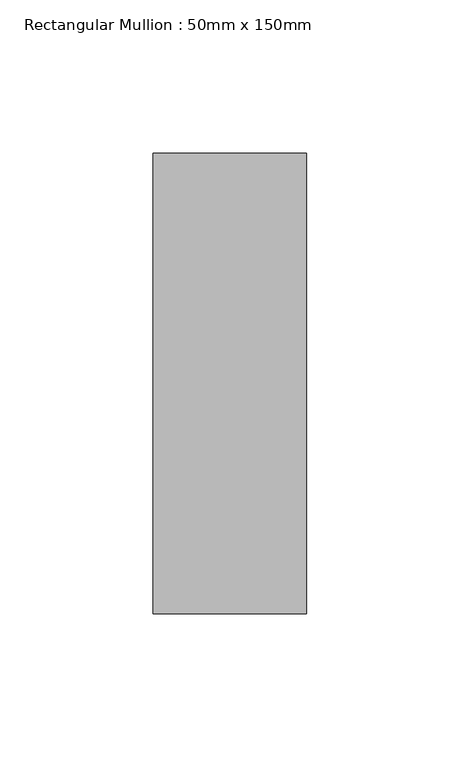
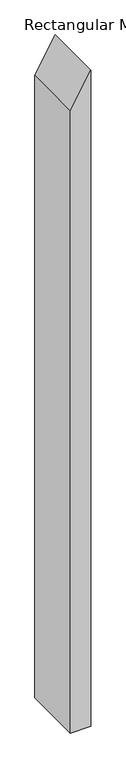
"""IFC4 building model written with IfcOpenShell, lengths in millimetres: member geometry, Rectangular Mullion : 50mm x 150mm."""

from ifc_helpers import new_model, si_unit, frame, origin, place, context, project, spatial, polyline, outline, extrude, source, transform, mapped, element, save


def rectangular_mullion_50mm_x_150mm_0971b26f(model_context):
    return source(origin(), model_context, "Body", "SweptSolid", [
        extrude(outline(polyline([(28.8675135, 0.0), (-57.7350269, -50.0), (-1661.4756, -50.0), (-1661.4756, 0.0), (28.8675135, 0.0)])), frame((0.0, -75.0, 0.0), z_axis=(0.0, 1.0, 0.0), x_axis=(0.0, 0.0, 1.0)), (0.0, 0.0, 1.0), 150.0),
    ])


if __name__ == "__main__":
    model = new_model("IFC4")
    model_context = context("Model", 3, world=origin())
    ifc_project = project(units=[si_unit("LENGTHUNIT", "METRE", prefix="MILLI")], contexts=[model_context])
    site = spatial("IfcSite", under=ifc_project)
    building = spatial("IfcBuilding", under=site)
    placement = place(None, origin())
    rectangular_mullion_50mm_x_150mm_shape = rectangular_mullion_50mm_x_150mm_0971b26f(model_context)
    element("IfcMember", 1, ObjectType="Rectangular Mullion : 50mm x 150mm", at=placement, inside=building, context=model_context, shape_type="MappedRepresentation", body=[
        mapped(rectangular_mullion_50mm_x_150mm_shape, transform((0.0, 0.0, 0.0), x_axis=(1.0, 0.0, 0.0), y_axis=(0.0, 1.0, 0.0), z_axis=(0.0, 0.0, 1.0))),
    ])
    save(model, "model.ifc")
